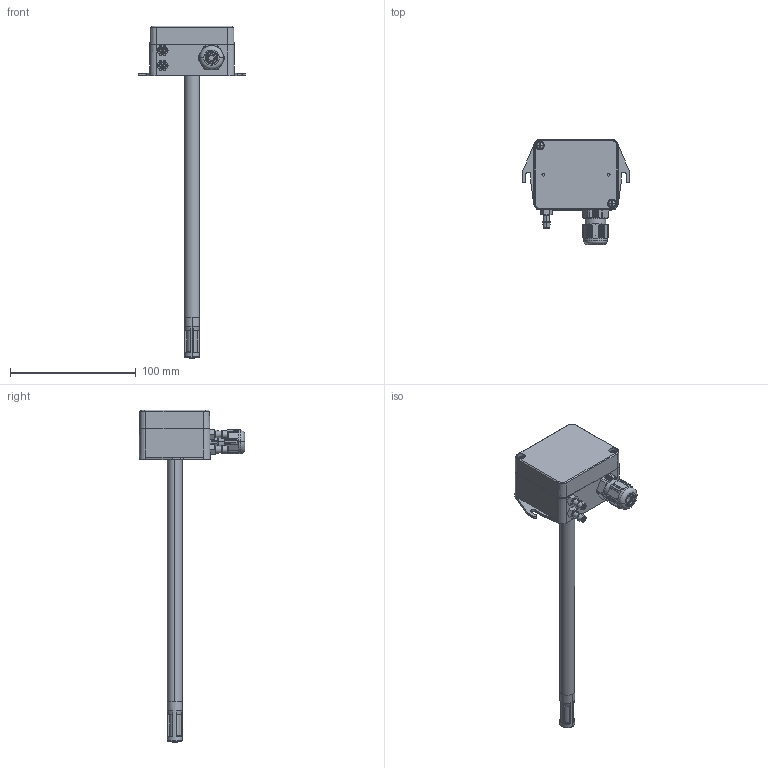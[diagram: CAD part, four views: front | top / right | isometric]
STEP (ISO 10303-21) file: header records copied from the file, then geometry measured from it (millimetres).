
FILE_DESCRIPTION (( 'STEP AP214' ), '1' );
FILE_NAME ('Base BM Duct version.STEP', '2025-02-04T14:19:47', ( '' ), ( '' ), 'SwSTEP 2.0', 'SolidWorks 2022', '' );
FILE_SCHEMA (( 'AUTOMOTIVE_DESIGN' ));
Length unit declared in the file: millimetre
Products named in the file (19): PG_Skintop_ST_16x1,5.R_102716.step; Gehäuse-Unterteil Druck+Temp+Feuchte Kanal Base; F_hlerkappe_Abdeckung_F_hlerrohr Lang.STEP.STEP; F_hlerkappe_F_hlerrohr Lang.STEP.STEP; Gehäuse-Deckel 67x56x15 DS01; Druckanschluss M5-Silikon; Universens.STEP.STEP; Filtermedium_F_hlerrohr Lang.STEP.STEP; Universens F_hler_F_hlerrohr Lang.STEP.STEP; SKINTOPM16; Fühlerrohr 200mm base; PG_Skintop_ST_16x1,5.R_102717.step; Filterkappe auf Fühlerrohr; Filterkappe auf Fühlerrohr.STEP; PG_Skintop_ST_16x1,5.R_102718.step; Gehäuseschraube; SKINTOPM16.step; Base BM Duct version; F_hlerkappe_Grundk_rper_F_hlerrohr Lang.STEP.STEP
Assembly tree (20 placements, depth 7):
  Base BM Duct version
    Gehäuse-Unterteil Druck+Temp+Feuchte Kanal Base
    SKINTOPM16
      SKINTOPM16.step
        PG_Skintop_ST_16x1,5.R_102716.step
        PG_Skintop_ST_16x1,5.R_102717.step
        PG_Skintop_ST_16x1,5.R_102718.step
    Druckanschluss M5-Silikon  x2
    Fühlerrohr 200mm base
    Gehäuse-Deckel 67x56x15 DS01
    Gehäuseschraube  x2
    Filterkappe auf Fühlerrohr
      Filterkappe auf Fühlerrohr.STEP
        Universens.STEP.STEP
          Universens F_hler_F_hlerrohr Lang.STEP.STEP
            F_hlerkappe_F_hlerrohr Lang.STEP.STEP
              F_hlerkappe_Grundk_rper_F_hlerrohr Lang.STEP.STEP
              F_hlerkappe_Abdeckung_F_hlerrohr Lang.STEP.STEP
              Filtermedium_F_hlerrohr Lang.STEP.STEP
Bounding box: 86 x 84.09 x 264.5 mm (x, y, z)
Volume: 61297.3 mm3; surface area: 60549.3 mm2
Topology: 13 solids, 13 shells, 886 faces, 2287 edges, 1466 vertices
Faces by surface type: plane 403, cylinder 204, cone 176, bspline 66, torus 37
Entity records: 32097 total; most frequent: CARTESIAN_POINT 11359, ORIENTED_EDGE 4210, DIRECTION 3883, EDGE_CURVE 2105, AXIS2_PLACEMENT_3D 1452, VERTEX_POINT 1355, VECTOR 979, LINE 979
